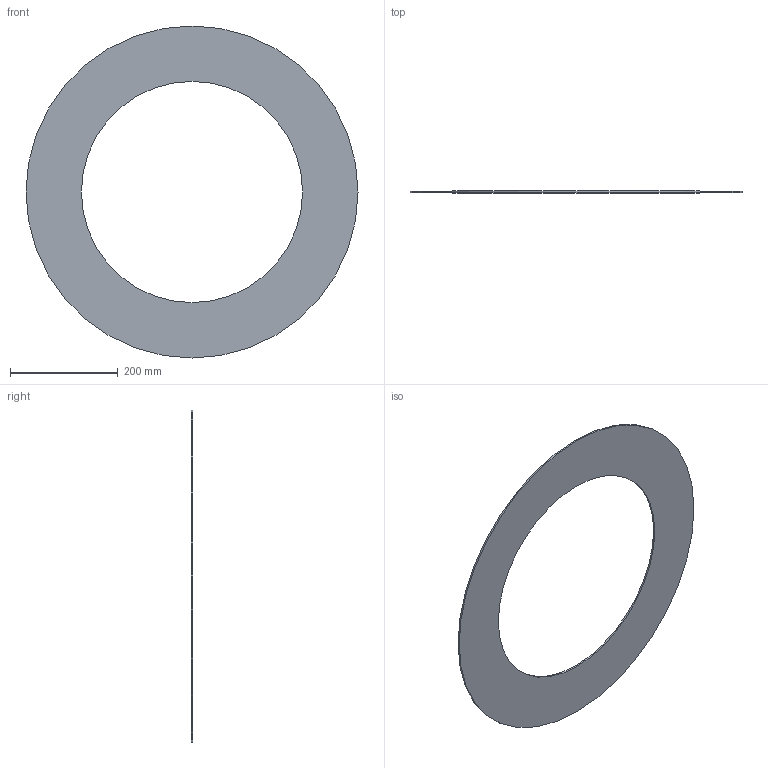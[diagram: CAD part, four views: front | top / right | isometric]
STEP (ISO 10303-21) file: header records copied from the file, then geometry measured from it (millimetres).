
FILE_DESCRIPTION(/* description */ ('Unknown'),/* implementation_level */ '2;1');
FILE_NAME(/* name */ 'GUA.500C',/* time_stamp */ '2021-04-01T14:24:14+02:00',/* author */ ('Unknown'),/* organization */ ('Unknown'),/* preprocessor_version */ 'ST-DEVELOPER v16.7',/* originating_system */ 'Solid Edge',/* authorisation */ 'Unknown');
FILE_SCHEMA (('AUTOMOTIVE_DESIGN {1 0 10303 214 3 1 1}'));
Length unit declared in the file: millimetre
Products named in the file (1): GUA.500C
Bounding box: 617 x 3 x 617 mm (x, y, z)
Volume: 498966.6 mm3; surface area: 342333.1 mm2
Topology: 1 solids, 1 shells, 4 faces, 6 edges, 4 vertices
Faces by surface type: cylinder 2, plane 2
Full cylindrical faces by diameter (mm): 411 x1, 617 x1
Entity records: 118 total; most frequent: DIRECTION 18, CARTESIAN_POINT 13, AXIS2_PLACEMENT_3D 9, ORIENTED_EDGE 8, EDGE_LOOP 8, FACE_BOUND 8, EDGE_CURVE 4, VERTEX_POINT 4
